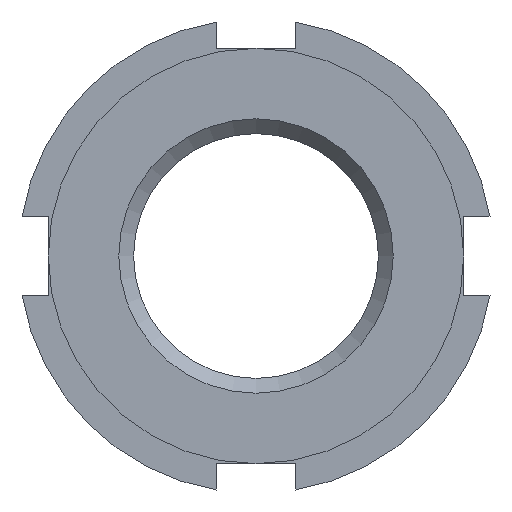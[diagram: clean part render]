
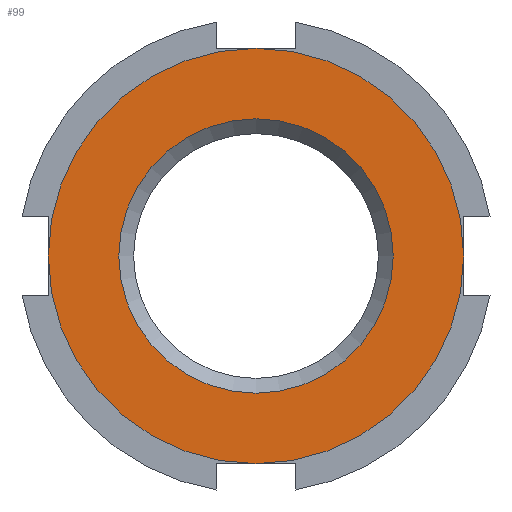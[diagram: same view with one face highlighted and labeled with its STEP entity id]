
A CAD part, left-side view. The second image highlights one B-rep face of the part: STEP entity #99.
In plain terms, the highlighted planar face has unit normal (-1, 0, 0).
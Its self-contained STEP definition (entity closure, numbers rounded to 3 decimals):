
#99 = ADVANCED_FACE( '', ( #167, #168 ), #169, .F. );
#167 = FACE_OUTER_BOUND( '', #245, .T. );
#168 = FACE_BOUND( '', #246, .T. );
#169 = PLANE( '', #247 );
#245 = EDGE_LOOP( '', ( #438 ) );
#246 = EDGE_LOOP( '', ( #439 ) );
#247 = AXIS2_PLACEMENT_3D( '', #440, #441, #442 );
#438 = ORIENTED_EDGE( '', *, *, #570, .F. );
#439 = ORIENTED_EDGE( '', *, *, #550, .T. );
#440 = CARTESIAN_POINT( '', ( 0., 0., 0. ) );
#441 = DIRECTION( '', ( 1., 0., 0. ) );
#442 = DIRECTION( '', ( 0., 0., -1. ) );
#550 = EDGE_CURVE( '', #656, #656, #657, .T. );
#570 = EDGE_CURVE( '', #684, #684, #685, .T. );
#656 = VERTEX_POINT( '', #841 );
#657 = CIRCLE( '', #842, 6.938 );
#684 = VERTEX_POINT( '', #877 );
#685 = CIRCLE( '', #878, 10.5 );
#841 = CARTESIAN_POINT( '', ( 0., 0., -6.938 ) );
#842 = AXIS2_PLACEMENT_3D( '', #967, #968, #969 );
#877 = CARTESIAN_POINT( '', ( 0., 0., -10.5 ) );
#878 = AXIS2_PLACEMENT_3D( '', #1014, #1015, #1016 );
#967 = CARTESIAN_POINT( '', ( 0., 0., 0. ) );
#968 = DIRECTION( '', ( 1., 0., 0. ) );
#969 = DIRECTION( '', ( 0., 0., -1. ) );
#1014 = CARTESIAN_POINT( '', ( 0., 0., 0. ) );
#1015 = DIRECTION( '', ( 1., 0., 0. ) );
#1016 = DIRECTION( '', ( 0., 0., -1. ) );
